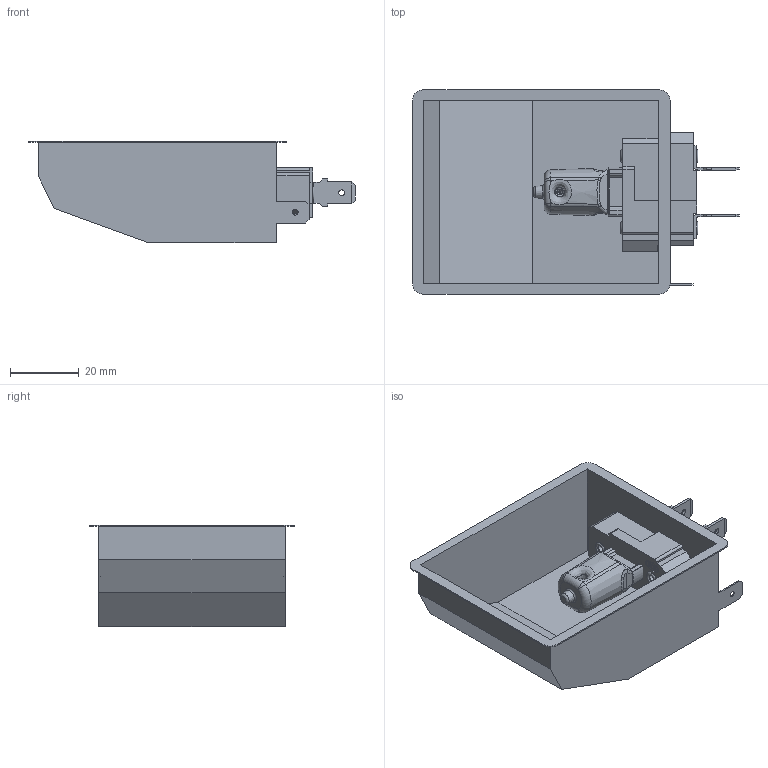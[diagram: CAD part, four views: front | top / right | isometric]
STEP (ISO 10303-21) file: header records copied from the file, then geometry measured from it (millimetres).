
FILE_DESCRIPTION(/* description */ ('Unknown'),/* implementation_level */ '2;1');
FILE_NAME(/* name */ '01B-M2J-04',/* time_stamp */ '2023-12-08T10:19:49+01:00',/* author */ ('Unknown'),/* organization */ ('Unknown'),/* preprocessor_version */ 'ST-DEVELOPER v16.7',/* originating_system */ 'Solid Edge',/* authorisation */ 'Unknown');
FILE_SCHEMA (('AUTOMOTIVE_DESIGN {1 0 10303 214 3 1 1}'));
Length unit declared in the file: millimetre
Products named in the file (7): 01B-M2J-04; 01B-M05-0D; 01C-20P-04; 01C-20U-02; 016-N0N-04; 016-N0J-01; 00Z-Z0H-01
Assembly tree (8 placements, depth 3):
  01B-M2J-04
    01B-M05-0D
    01C-20P-04
      01C-20U-02
      016-N0N-04  x2
      016-N0J-01  x2
    00Z-Z0H-01
Bounding box: 94.8 x 59.2 x 29.55 mm (x, y, z)
Volume: 15588.9 mm3; surface area: 26538.9 mm2
Topology: 7 solids, 7 shells, 1102 faces, 2872 edges, 1872 vertices
Faces by surface type: plane 577, bspline 344, cylinder 94, torus 72, cone 11, sphere 4
Full cylindrical faces by diameter (mm): 0.5 x4, 1.65 x3, 2 x2, 2.5 x2, 2.8 x2, 3 x2
Entity records: 37022 total; most frequent: CARTESIAN_POINT 13267, ORIENTED_EDGE 5468, DIRECTION 3680, EDGE_CURVE 2734, VERTEX_POINT 1812, LINE 1526, VECTOR 1526, EDGE_LOOP 1226
